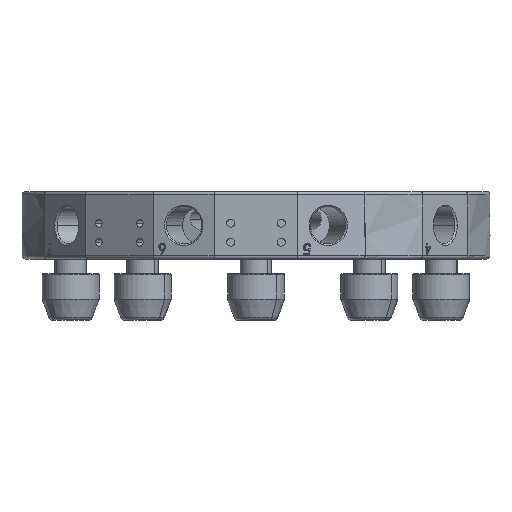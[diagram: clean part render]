
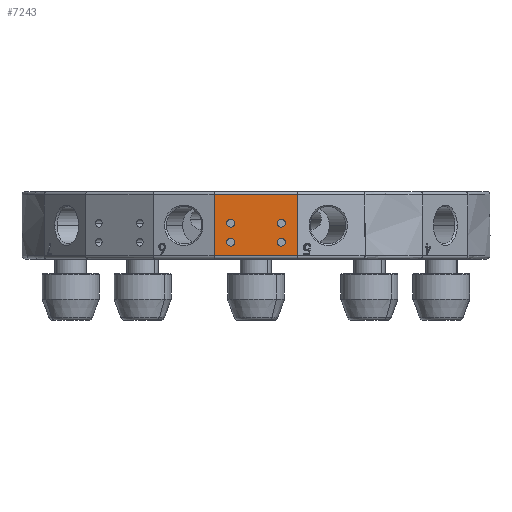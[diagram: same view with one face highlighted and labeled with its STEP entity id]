
A CAD part, front view. The second image highlights one B-rep face of the part: STEP entity #7243.
In plain terms, the highlighted planar face has unit normal (0, -1, 0).
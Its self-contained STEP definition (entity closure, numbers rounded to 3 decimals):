
#602 = CARTESIAN_POINT ( 'NONE',  ( 8., -73.5, -13.505 ) ) ;
#1058 = ORIENTED_EDGE ( 'NONE', *, *, #2176, .F. ) ;
#1124 = DIRECTION ( 'NONE',  ( 0., 0., 1. ) ) ;
#1154 = DIRECTION ( 'NONE',  ( 0., -1., 0. ) ) ;
#1186 = CARTESIAN_POINT ( 'NONE',  ( -8., -73.5, -14.755 ) ) ;
#2139 = EDGE_CURVE ( 'NONE', #4570, #3437, #16671, .T. ) ;
#2141 = EDGE_CURVE ( 'NONE', #10923, #4171, #4068, .T. ) ;
#2176 = EDGE_CURVE ( 'NONE', #5261, #14223, #4945, .T. ) ;
#2206 = EDGE_CURVE ( 'NONE', #18455, #20192, #7309, .T. ) ;
#2215 = DIRECTION ( 'NONE',  ( 0., 0., 1. ) ) ;
#2219 = DIRECTION ( 'NONE',  ( 0., -1., 0. ) ) ;
#2244 = CARTESIAN_POINT ( 'NONE',  ( 8., -73.5, -14.755 ) ) ;
#2249 = EDGE_CURVE ( 'NONE', #2628, #13603, #12506, .T. ) ;
#2253 = EDGE_CURVE ( 'NONE', #9364, #9891, #6941, .T. ) ;
#2628 = VERTEX_POINT ( 'NONE', #20497 ) ;
#2662 = CIRCLE ( 'NONE', #17538, 1.25 ) ;
#3437 = VERTEX_POINT ( 'NONE', #4408 ) ;
#3542 = EDGE_CURVE ( 'NONE', #3437, #4570, #12623, .T. ) ;
#3605 = EDGE_CURVE ( 'NONE', #4171, #10923, #7335, .T. ) ;
#3709 = EDGE_CURVE ( 'NONE', #14223, #5261, #4920, .T. ) ;
#3850 = EDGE_CURVE ( 'NONE', #20192, #18455, #2662, .T. ) ;
#3961 = CARTESIAN_POINT ( 'NONE',  ( -13.259, -73.5, -19.055 ) ) ;
#4068 = CIRCLE ( 'NONE', #13410, 1.25 ) ;
#4171 = VERTEX_POINT ( 'NONE', #9328 ) ;
#4408 = CARTESIAN_POINT ( 'NONE',  ( 8., -73.5, -16.005 ) ) ;
#4570 = VERTEX_POINT ( 'NONE', #602 ) ;
#4920 = CIRCLE ( 'NONE', #17209, 1.25 ) ;
#4945 = CIRCLE ( 'NONE', #13460, 1.25 ) ;
#5036 = DIRECTION ( 'NONE',  ( 0., 0., -1. ) ) ;
#5261 = VERTEX_POINT ( 'NONE', #18654 ) ;
#5305 = CARTESIAN_POINT ( 'NONE',  ( -13.259, -73.5, 27.521 ) ) ;
#5324 = DIRECTION ( 'NONE',  ( 0., 0., 1. ) ) ;
#5949 = CARTESIAN_POINT ( 'NONE',  ( 13.259, -73.5, 27.521 ) ) ;
#6416 = EDGE_LOOP ( 'NONE', ( #10776, #17778 ) ) ;
#6616 = EDGE_CURVE ( 'NONE', #2628, #9891, #21738, .T. ) ;
#6717 = EDGE_LOOP ( 'NONE', ( #9043, #17562, #11683, #18221 ) ) ;
#6798 = EDGE_LOOP ( 'NONE', ( #19225, #6908 ) ) ;
#6850 = VECTOR ( 'NONE', #17626, 1000. ) ;
#6908 = ORIENTED_EDGE ( 'NONE', *, *, #3605, .F. ) ;
#6941 = LINE ( 'NONE', #16047, #7813 ) ;
#7243 = ADVANCED_FACE ( 'NONE', ( #19304, #19181, #19255, #19387, #19208 ), #19422, .F. ) ;
#7309 = CIRCLE ( 'NONE', #13551, 1.25 ) ;
#7335 = CIRCLE ( 'NONE', #16889, 1.25 ) ;
#7813 = VECTOR ( 'NONE', #14773, 1000. ) ;
#8003 = CARTESIAN_POINT ( 'NONE',  ( -8., -73.5, -7.505 ) ) ;
#8585 = CARTESIAN_POINT ( 'NONE',  ( 8., -73.5, -10.005 ) ) ;
#9043 = ORIENTED_EDGE ( 'NONE', *, *, #6616, .F. ) ;
#9328 = CARTESIAN_POINT ( 'NONE',  ( -8., -73.5, -16.005 ) ) ;
#9364 = VERTEX_POINT ( 'NONE', #3961 ) ;
#9642 = ORIENTED_EDGE ( 'NONE', *, *, #3709, .F. ) ;
#9891 = VERTEX_POINT ( 'NONE', #19005 ) ;
#10617 = EDGE_CURVE ( 'NONE', #9364, #13603, #10673, .T. ) ;
#10673 = LINE ( 'NONE', #5305, #10687 ) ;
#10687 = VECTOR ( 'NONE', #5324, 1000. ) ;
#10776 = ORIENTED_EDGE ( 'NONE', *, *, #2139, .F. ) ;
#10923 = VERTEX_POINT ( 'NONE', #21321 ) ;
#11683 = ORIENTED_EDGE ( 'NONE', *, *, #10617, .F. ) ;
#12341 = CARTESIAN_POINT ( 'NONE',  ( 17., -73.5, 0.245 ) ) ;
#12506 = LINE ( 'NONE', #12341, #6850 ) ;
#12623 = CIRCLE ( 'NONE', #16555, 1.25 ) ;
#13374 = AXIS2_PLACEMENT_3D ( 'NONE', #21153, #20727, #21178 ) ;
#13410 = AXIS2_PLACEMENT_3D ( 'NONE', #20204, #17721, #20049 ) ;
#13460 = AXIS2_PLACEMENT_3D ( 'NONE', #19127, #18822, #18819 ) ;
#13551 = AXIS2_PLACEMENT_3D ( 'NONE', #17208, #16941, #16720 ) ;
#13603 = VERTEX_POINT ( 'NONE', #13785 ) ;
#13710 = EDGE_LOOP ( 'NONE', ( #15726, #13982 ) ) ;
#13785 = CARTESIAN_POINT ( 'NONE',  ( -13.259, -73.5, 0.245 ) ) ;
#13826 = EDGE_LOOP ( 'NONE', ( #1058, #9642 ) ) ;
#13982 = ORIENTED_EDGE ( 'NONE', *, *, #3850, .F. ) ;
#14068 = DIRECTION ( 'NONE',  ( 0., 0., 1. ) ) ;
#14223 = VERTEX_POINT ( 'NONE', #8585 ) ;
#14343 = DIRECTION ( 'NONE',  ( 0., -1., 0. ) ) ;
#14773 = DIRECTION ( 'NONE',  ( 1., 0., 0. ) ) ;
#14936 = CARTESIAN_POINT ( 'NONE',  ( -8., -73.5, -10.005 ) ) ;
#15682 = CARTESIAN_POINT ( 'NONE',  ( 8., -73.5, -8.755 ) ) ;
#15726 = ORIENTED_EDGE ( 'NONE', *, *, #2206, .F. ) ;
#16047 = CARTESIAN_POINT ( 'NONE',  ( 13.259, -73.5, -19.055 ) ) ;
#16555 = AXIS2_PLACEMENT_3D ( 'NONE', #2244, #2219, #2215 ) ;
#16671 = CIRCLE ( 'NONE', #13374, 1.25 ) ;
#16720 = DIRECTION ( 'NONE',  ( 0., 0., 1. ) ) ;
#16889 = AXIS2_PLACEMENT_3D ( 'NONE', #1186, #1154, #1124 ) ;
#16941 = DIRECTION ( 'NONE',  ( 0., -1., 0. ) ) ;
#17208 = CARTESIAN_POINT ( 'NONE',  ( -8., -73.5, -8.755 ) ) ;
#17209 = AXIS2_PLACEMENT_3D ( 'NONE', #15682, #14343, #14068 ) ;
#17538 = AXIS2_PLACEMENT_3D ( 'NONE', #20882, #20859, #20833 ) ;
#17562 = ORIENTED_EDGE ( 'NONE', *, *, #2249, .T. ) ;
#17626 = DIRECTION ( 'NONE',  ( -1., 0., 0. ) ) ;
#17721 = DIRECTION ( 'NONE',  ( 0., -1., 0. ) ) ;
#17778 = ORIENTED_EDGE ( 'NONE', *, *, #3542, .F. ) ;
#18221 = ORIENTED_EDGE ( 'NONE', *, *, #2253, .T. ) ;
#18455 = VERTEX_POINT ( 'NONE', #8003 ) ;
#18654 = CARTESIAN_POINT ( 'NONE',  ( 8., -73.5, -7.505 ) ) ;
#18819 = DIRECTION ( 'NONE',  ( 0., 0., 1. ) ) ;
#18822 = DIRECTION ( 'NONE',  ( 0., -1., 0. ) ) ;
#19005 = CARTESIAN_POINT ( 'NONE',  ( 13.259, -73.5, -19.055 ) ) ;
#19127 = CARTESIAN_POINT ( 'NONE',  ( 8., -73.5, -8.755 ) ) ;
#19181 = FACE_BOUND ( 'NONE', #6798, .T. ) ;
#19208 = FACE_OUTER_BOUND ( 'NONE', #6717, .T. ) ;
#19225 = ORIENTED_EDGE ( 'NONE', *, *, #2141, .F. ) ;
#19255 = FACE_BOUND ( 'NONE', #13826, .T. ) ;
#19304 = FACE_BOUND ( 'NONE', #6416, .T. ) ;
#19386 = DIRECTION ( 'NONE',  ( 0., 0., -1. ) ) ;
#19387 = FACE_BOUND ( 'NONE', #13710, .T. ) ;
#19393 = DIRECTION ( 'NONE',  ( 0., 1., 0. ) ) ;
#19422 = PLANE ( 'NONE',  #21304 ) ;
#19444 = CARTESIAN_POINT ( 'NONE',  ( 17., -73.5, 35.278 ) ) ;
#20049 = DIRECTION ( 'NONE',  ( 0., 0., 1. ) ) ;
#20192 = VERTEX_POINT ( 'NONE', #14936 ) ;
#20204 = CARTESIAN_POINT ( 'NONE',  ( -8., -73.5, -14.755 ) ) ;
#20497 = CARTESIAN_POINT ( 'NONE',  ( 13.259, -73.5, 0.245 ) ) ;
#20727 = DIRECTION ( 'NONE',  ( 0., -1., 0. ) ) ;
#20833 = DIRECTION ( 'NONE',  ( 0., 0., 1. ) ) ;
#20859 = DIRECTION ( 'NONE',  ( 0., -1., 0. ) ) ;
#20882 = CARTESIAN_POINT ( 'NONE',  ( -8., -73.5, -8.755 ) ) ;
#21153 = CARTESIAN_POINT ( 'NONE',  ( 8., -73.5, -14.755 ) ) ;
#21178 = DIRECTION ( 'NONE',  ( 0., 0., 1. ) ) ;
#21304 = AXIS2_PLACEMENT_3D ( 'NONE', #19444, #19393, #19386 ) ;
#21321 = CARTESIAN_POINT ( 'NONE',  ( -8., -73.5, -13.505 ) ) ;
#21543 = VECTOR ( 'NONE', #5036, 1000. ) ;
#21738 = LINE ( 'NONE', #5949, #21543 ) ;
